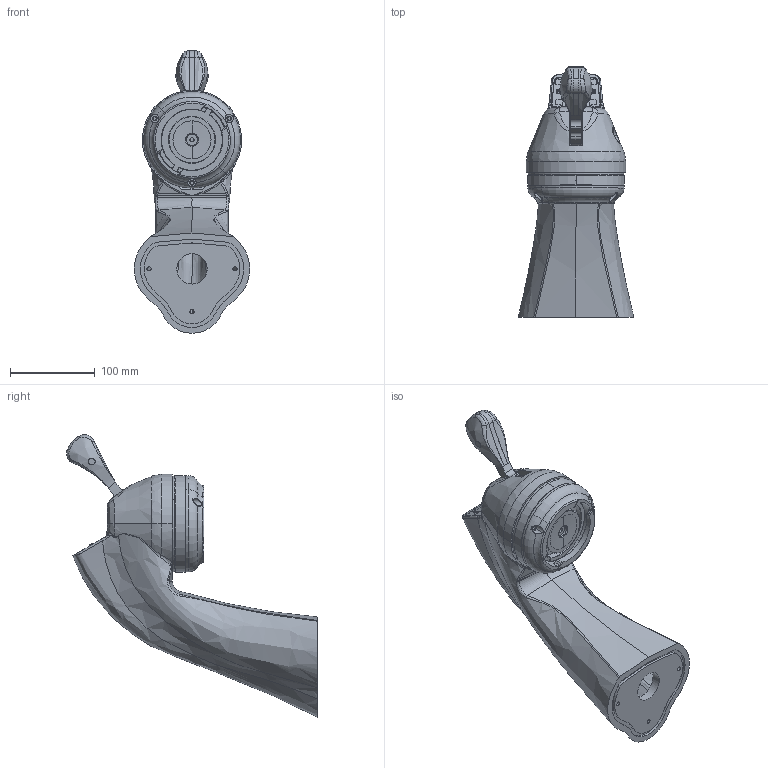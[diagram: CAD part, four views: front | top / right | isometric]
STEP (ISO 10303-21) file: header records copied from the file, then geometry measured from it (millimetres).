
FILE_DESCRIPTION (( 'STEP AP214' ), '1' );
FILE_NAME ('LM0013838_MODBAR-EP_ESPRESSO_TAP.STEP', '2018-04-05T12:41:19', ( 'Service3D' ), ( 'Microsoft' ), 'SwSTEP 2.0', 'SolidWorks 2017', '' );
FILE_SCHEMA (( 'AUTOMOTIVE_DESIGN' ));
Length unit declared in the file: millimetre
Products named in the file (16): LM0007278; LM0013838_MODBAR-EP_ESPRESSO_TAP; LM0007254_M-5001-01; LM0007178; LM0006984_M-0003-02; LM0007091_M-0052-01; LM0007093_M-0053-01; LM0007252_M-0193-01; LM0007225_M-0138-01; LM0006979_M-0001-01; LM0006728_A-6002-01; LM0007406; LM0007096_M-0054-01; LM0007271_M-5016-01; LM0007281_M-6001-01; LM0007280_M-6000-01
Assembly tree (16 placements, depth 3):
  LM0013838_MODBAR-EP_ESPRESSO_TAP
    LM0007254_M-5001-01
    LM0007178  x2
    LM0006728_A-6002-01
      LM0006984_M-0003-02
      LM0007091_M-0052-01
      LM0007093_M-0053-01
      LM0007252_M-0193-01
      LM0007225_M-0138-01
      LM0006979_M-0001-01
    LM0007406
    LM0007096_M-0054-01
    LM0007271_M-5016-01
    LM0007281_M-6001-01
    LM0007280_M-6000-01
    LM0007278
Bounding box: 136.68 x 296.39 x 334.03 mm (x, y, z)
Volume: 1167051.9 mm3; surface area: 325516.5 mm2
Topology: 15 solids, 15 shells, 1008 faces, 2630 edges, 1648 vertices
Faces by surface type: cylinder 402, plane 206, bspline 203, cone 142, torus 41, sphere 14
Entity records: 89380 total; most frequent: CARTESIAN_POINT 67083, ORIENTED_EDGE 4764, DIRECTION 3899, EDGE_CURVE 2382, AXIS2_PLACEMENT_3D 1557, VERTEX_POINT 1510, EDGE_LOOP 1062, ADVANCED_FACE 933
